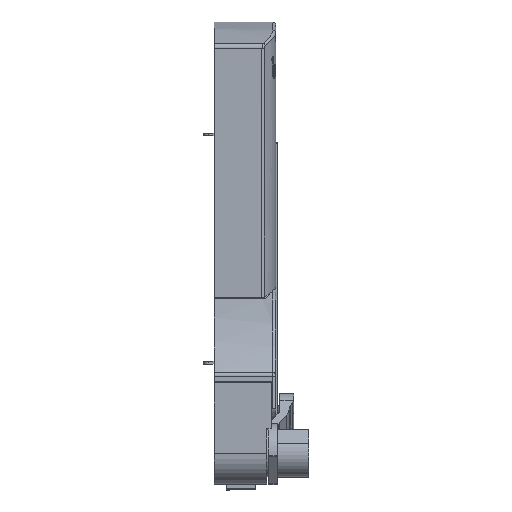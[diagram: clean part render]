
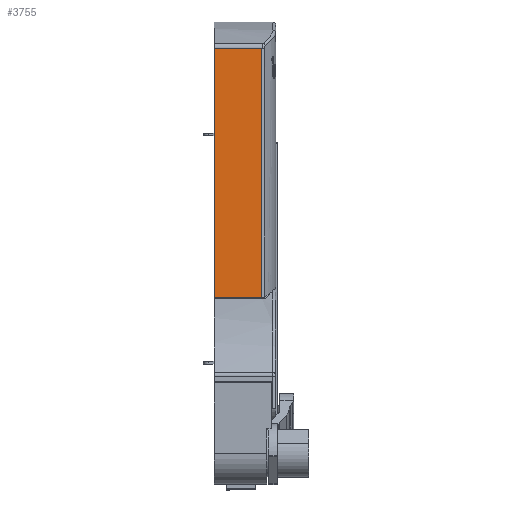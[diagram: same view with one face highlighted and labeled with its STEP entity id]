
A CAD part, top view. The second image highlights one B-rep face of the part: STEP entity #3755.
In plain terms, the highlighted planar face has unit normal (0, 0, 1).
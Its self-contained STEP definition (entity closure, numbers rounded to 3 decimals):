
#474 = ORIENTED_EDGE ( 'NONE', *, *, #7573, .T. ) ;
#475 = ORIENTED_EDGE ( 'NONE', *, *, #7695, .T. ) ;
#476 = ORIENTED_EDGE ( 'NONE', *, *, #7696, .T. ) ;
#477 = ORIENTED_EDGE ( 'NONE', *, *, #7697, .T. ) ;
#611 = VERTEX_POINT ( 'NONE', #5857 ) ;
#639 = VERTEX_POINT ( 'NONE', #5885 ) ;
#1420 = VERTEX_POINT ( 'NONE', #6075 ) ;
#1425 = VERTEX_POINT ( 'NONE', #6080 ) ;
#1815 = CARTESIAN_POINT ( 'NONE',  ( 53., 101.957, 24.257 ) ) ;
#1822 = FACE_OUTER_BOUND ( 'NONE', #5539, .T. ) ;
#1823 = PLANE ( 'NONE',  #8420 ) ;
#1826 = DIRECTION ( 'NONE',  ( 0., 0., -1. ) ) ;
#1827 = DIRECTION ( 'NONE',  ( -1., 0., 0. ) ) ;
#3755 = ADVANCED_FACE ( 'NONE', ( #1822 ), #1823, .F. ) ;
#5539 = EDGE_LOOP ( 'NONE', ( #474, #475, #476, #477 ) ) ;
#5857 = CARTESIAN_POINT ( 'NONE',  ( 26.858, 68.229, 24.257 ) ) ;
#5885 = CARTESIAN_POINT ( 'NONE',  ( 26.858, 208.25, 24.257 ) ) ;
#6075 = CARTESIAN_POINT ( 'NONE',  ( 0., 208.25, 24.257 ) ) ;
#6080 = CARTESIAN_POINT ( 'NONE',  ( 0., 68.229, 24.257 ) ) ;
#7573 = EDGE_CURVE ( 'NONE', #1420, #1425, #11675, .T. ) ;
#7695 = EDGE_CURVE ( 'NONE', #1425, #611, #12455, .T. ) ;
#7696 = EDGE_CURVE ( 'NONE', #611, #639, #12461, .T. ) ;
#7697 = EDGE_CURVE ( 'NONE', #639, #1420, #12467, .T. ) ;
#8420 = AXIS2_PLACEMENT_3D ( 'NONE', #1815, #1826, #1827 ) ;
#11675 = LINE ( 'NONE', #11697, #13608 ) ;
#11697 = CARTESIAN_POINT ( 'NONE',  ( 0., 101.957, 24.257 ) ) ;
#11713 = DIRECTION ( 'NONE',  ( 0., -1., 0. ) ) ;
#12455 = LINE ( 'NONE', #12457, #13896 ) ;
#12457 = CARTESIAN_POINT ( 'NONE',  ( 26.858, 68.229, 24.257 ) ) ;
#12459 = DIRECTION ( 'NONE',  ( 1., 0., 0. ) ) ;
#12461 = LINE ( 'NONE', #12464, #13898 ) ;
#12464 = CARTESIAN_POINT ( 'NONE',  ( 26.858, 101.957, 24.257 ) ) ;
#12466 = DIRECTION ( 'NONE',  ( 0., 1., 0. ) ) ;
#12467 = LINE ( 'NONE', #12470, #13900 ) ;
#12470 = CARTESIAN_POINT ( 'NONE',  ( 53., 208.25, 24.257 ) ) ;
#12472 = DIRECTION ( 'NONE',  ( -1., 0., 0. ) ) ;
#13608 = VECTOR ( 'NONE', #11713, 1000. ) ;
#13896 = VECTOR ( 'NONE', #12459, 1000. ) ;
#13898 = VECTOR ( 'NONE', #12466, 1000. ) ;
#13900 = VECTOR ( 'NONE', #12472, 1000. ) ;
